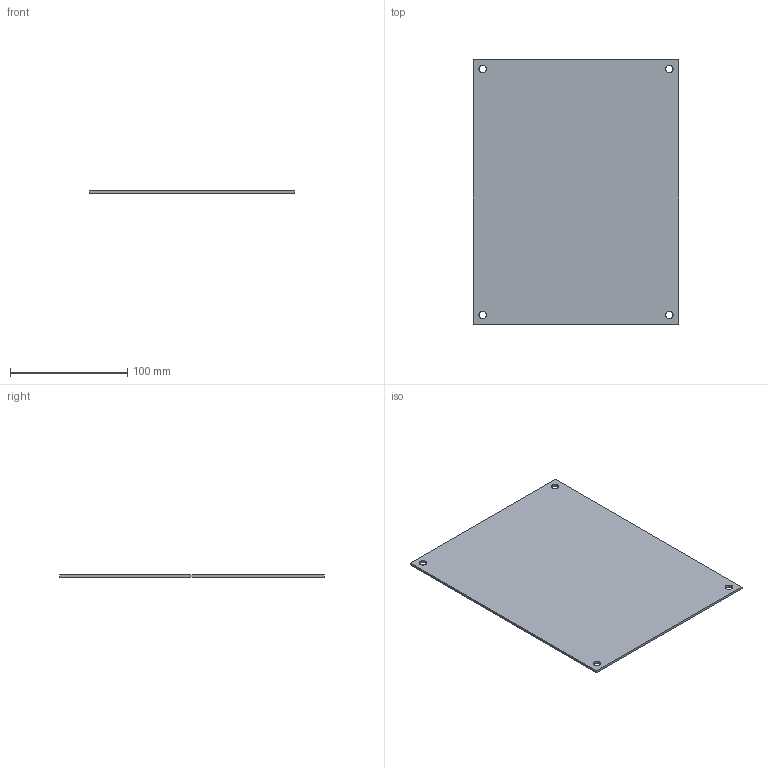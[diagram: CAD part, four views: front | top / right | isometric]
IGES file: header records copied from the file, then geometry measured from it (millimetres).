
Start section: SolidWorks IGES file using analytic representation for surfaces
Global section: file name: G:\3DRAW\ARCA\3DCAM\Solidpart\FIBOX_ABP108.IGS; native system: SolidWorks 2009; preprocessor: SolidWorks 2009; author: KennethW; date: 100308.095257; units: millimetre
Bounding box: 175 x 225 x 2 mm (x, y, z)
Surface area: 80256.2 mm2 (no closed solid volume)
Topology: 0 solids, 0 shells, 14 faces, 312 edges, 312 vertices
Faces by surface type: revolution 8, bspline 6
